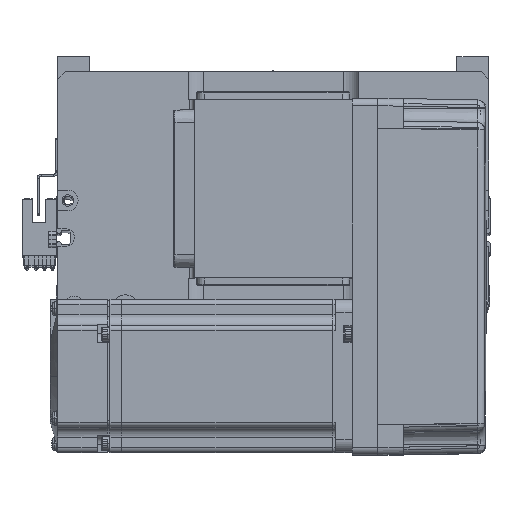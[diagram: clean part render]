
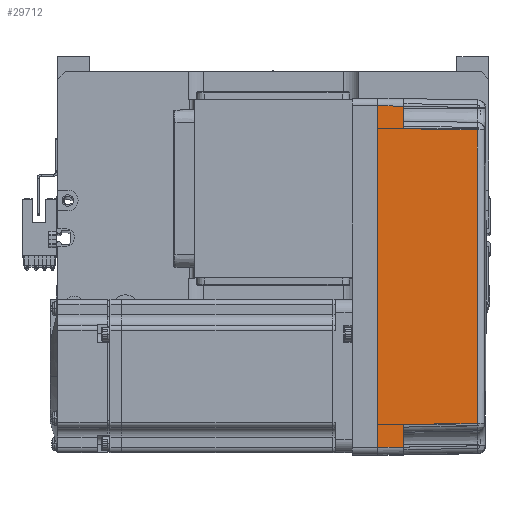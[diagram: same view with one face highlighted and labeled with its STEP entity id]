
A CAD part, top view. The second image highlights one B-rep face of the part: STEP entity #29712.
In plain terms, the highlighted planar face has unit normal (0.018, 0, 1) as drawn and (0, 1, 0.017) by its records, which use the part's own axes.
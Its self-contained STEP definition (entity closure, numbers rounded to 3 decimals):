
#516 = VERTEX_POINT ( 'NONE', #48134 ) ;
#1596 = EDGE_CURVE ( 'NONE', #20869, #40006, #14506, .T. ) ;
#1896 = ORIENTED_EDGE ( 'NONE', *, *, #3048, .T. ) ;
#2412 = EDGE_CURVE ( 'NONE', #42518, #26359, #36664, .T. ) ;
#3048 = EDGE_CURVE ( 'NONE', #54570, #20869, #54475, .T. ) ;
#3760 = CARTESIAN_POINT ( 'NONE',  ( -58., 35.825, 10. ) ) ;
#3927 = ORIENTED_EDGE ( 'NONE', *, *, #44526, .T. ) ;
#4180 = DIRECTION ( 'NONE',  ( 0., -0.017, 1. ) ) ;
#4576 = DIRECTION ( 'NONE',  ( 1., 0., 0. ) ) ;
#6461 = FACE_OUTER_BOUND ( 'NONE', #49363, .T. ) ;
#8238 = CARTESIAN_POINT ( 'NONE',  ( 0., 36., 0. ) ) ;
#8714 = CARTESIAN_POINT ( 'NONE',  ( -19.165, 35.316, 39.181 ) ) ;
#9761 = CARTESIAN_POINT ( 'NONE',  ( 70., 35.825, 10. ) ) ;
#13937 = PLANE ( 'NONE',  #58103 ) ;
#14506 = LINE ( 'NONE', #24397, #19720 ) ;
#14513 = LINE ( 'NONE', #9761, #22729 ) ;
#15106 = LINE ( 'NONE', #51683, #55168 ) ;
#16377 = ORIENTED_EDGE ( 'NONE', *, *, #40911, .F. ) ;
#16984 = CARTESIAN_POINT ( 'NONE',  ( 66.826, 35.825, 10. ) ) ;
#17899 = DIRECTION ( 'NONE',  ( -0.017, -0.017, 1. ) ) ;
#17972 = CARTESIAN_POINT ( 'NONE',  ( -58., 35.825, 10. ) ) ;
#19720 = VECTOR ( 'NONE', #48806, 1000. ) ;
#20609 = CARTESIAN_POINT ( 'NONE',  ( 67., 36., 0. ) ) ;
#20869 = VERTEX_POINT ( 'NONE', #55679 ) ;
#21968 = ORIENTED_EDGE ( 'NONE', *, *, #1596, .T. ) ;
#22125 = VERTEX_POINT ( 'NONE', #17972 ) ;
#22513 = DIRECTION ( 'NONE',  ( 0.017, -0.017, 1. ) ) ;
#22729 = VECTOR ( 'NONE', #4576, 1000. ) ;
#22909 = CARTESIAN_POINT ( 'NONE',  ( -57.495, 35.32, 38.985 ) ) ;
#24208 = ORIENTED_EDGE ( 'NONE', *, *, #2412, .F. ) ;
#24397 = CARTESIAN_POINT ( 'NONE',  ( 57.495, 35.32, 38.985 ) ) ;
#24845 = LINE ( 'NONE', #35978, #28610 ) ;
#26359 = VERTEX_POINT ( 'NONE', #20609 ) ;
#28610 = VECTOR ( 'NONE', #17899, 1000. ) ;
#29712 = ADVANCED_FACE ( 'NONE', ( #6461 ), #13937, .T. ) ;
#31641 = ORIENTED_EDGE ( 'NONE', *, *, #59505, .T. ) ;
#32260 = CARTESIAN_POINT ( 'NONE',  ( 70., 36., 0. ) ) ;
#35824 = CARTESIAN_POINT ( 'NONE',  ( -67., 36., 0. ) ) ;
#35978 = CARTESIAN_POINT ( 'NONE',  ( 67.001, 36.001, -0.052 ) ) ;
#36664 = LINE ( 'NONE', #8238, #45558 ) ;
#37425 = CARTESIAN_POINT ( 'NONE',  ( -57.495, 35.32, 38.985 ) ) ;
#40006 = VERTEX_POINT ( 'NONE', #47091 ) ;
#40078 = ORIENTED_EDGE ( 'NONE', *, *, #42059, .T. ) ;
#40911 = EDGE_CURVE ( 'NONE', #26359, #61190, #24845, .T. ) ;
#41773 = DIRECTION ( 'NONE',  ( 1., 0., 0. ) ) ;
#42059 = EDGE_CURVE ( 'NONE', #22125, #54570, #58670, .T. ) ;
#42200 = DIRECTION ( 'NONE',  ( 0., 1., 0.017 ) ) ;
#42518 = VERTEX_POINT ( 'NONE', #35824 ) ;
#42890 = VECTOR ( 'NONE', #56589, 1000. ) ;
#44526 = EDGE_CURVE ( 'NONE', #42518, #516, #55466, .T. ) ;
#45558 = VECTOR ( 'NONE', #55138, 1000. ) ;
#46103 = EDGE_CURVE ( 'NONE', #516, #22125, #15106, .T. ) ;
#47091 = CARTESIAN_POINT ( 'NONE',  ( 58., 35.825, 10. ) ) ;
#48134 = CARTESIAN_POINT ( 'NONE',  ( -66.826, 35.825, 10. ) ) ;
#48806 = DIRECTION ( 'NONE',  ( 0.017, 0.017, -1. ) ) ;
#49363 = EDGE_LOOP ( 'NONE', ( #3927, #58259, #40078, #1896, #21968, #31641, #16377, #24208 ) ) ;
#51683 = CARTESIAN_POINT ( 'NONE',  ( 70., 35.825, 10. ) ) ;
#51862 = CARTESIAN_POINT ( 'NONE',  ( 19.165, 35.316, 39.181 ) ) ;
#52228 = CARTESIAN_POINT ( 'NONE',  ( -67., 36., 0. ) ) ;
#54475 = B_SPLINE_CURVE_WITH_KNOTS ( 'NONE', 3,
 ( #22909, #8714, #51862, #61380 ),
 .UNSPECIFIED., .F., .F.,
 ( 4, 4 ),
 ( 0., 1. ),
 .UNSPECIFIED. ) ;
#54570 = VERTEX_POINT ( 'NONE', #37425 ) ;
#55138 = DIRECTION ( 'NONE',  ( 1., 0., 0. ) ) ;
#55168 = VECTOR ( 'NONE', #41773, 1000. ) ;
#55466 = LINE ( 'NONE', #52228, #42890 ) ;
#55679 = CARTESIAN_POINT ( 'NONE',  ( 57.495, 35.32, 38.985 ) ) ;
#56589 = DIRECTION ( 'NONE',  ( 0.017, -0.017, 1. ) ) ;
#58103 = AXIS2_PLACEMENT_3D ( 'NONE', #32260, #42200, #4180 ) ;
#58259 = ORIENTED_EDGE ( 'NONE', *, *, #46103, .T. ) ;
#58670 = LINE ( 'NONE', #3760, #60181 ) ;
#59505 = EDGE_CURVE ( 'NONE', #40006, #61190, #14513, .T. ) ;
#60181 = VECTOR ( 'NONE', #22513, 1000. ) ;
#61190 = VERTEX_POINT ( 'NONE', #16984 ) ;
#61380 = CARTESIAN_POINT ( 'NONE',  ( 57.495, 35.32, 38.985 ) ) ;
